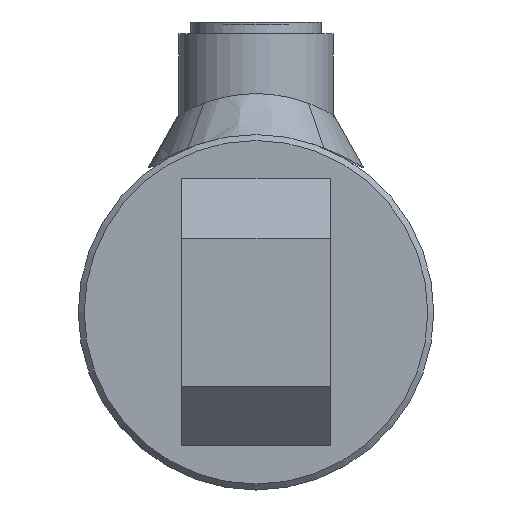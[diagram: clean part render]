
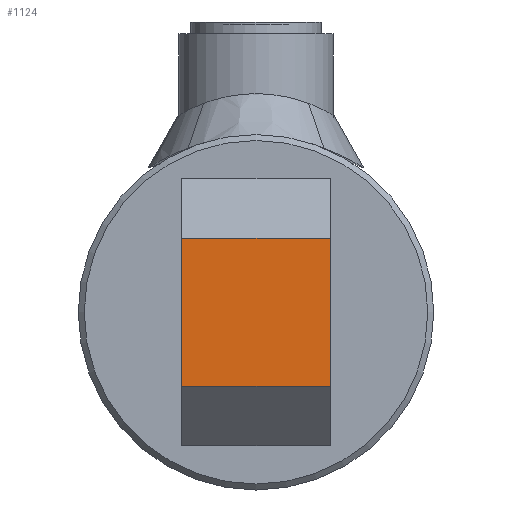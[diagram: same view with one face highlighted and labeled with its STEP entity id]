
A CAD part, left-side view. The second image highlights one B-rep face of the part: STEP entity #1124.
In plain terms, the highlighted planar face has unit normal (-1, 0, 0) as drawn and (1, 0, 0) by its records, which use the part's own axes.
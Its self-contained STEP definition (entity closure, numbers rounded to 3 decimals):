
#1124 = ADVANCED_FACE( '', ( #1530 ), #1531, .T. );
#1530 = FACE_OUTER_BOUND( '', #2957, .T. );
#1531 = PLANE( '', #2958 );
#2957 = EDGE_LOOP( '', ( #3500, #3501, #3502, #3503 ) );
#2958 = AXIS2_PLACEMENT_3D( '', #3504, #3505, #3506 );
#3500 = ORIENTED_EDGE( '', *, *, #3943, .T. );
#3501 = ORIENTED_EDGE( '', *, *, #3962, .T. );
#3502 = ORIENTED_EDGE( '', *, *, #3948, .T. );
#3503 = ORIENTED_EDGE( '', *, *, #3961, .T. );
#3504 = CARTESIAN_POINT( '', ( 50., -12.5, -22.5 ) );
#3505 = DIRECTION( '', ( 1., 0., 0. ) );
#3506 = DIRECTION( '', ( 0., 1., 0. ) );
#3943 = EDGE_CURVE( '', #4543, #4541, #4544, .T. );
#3948 = EDGE_CURVE( '', #4552, #4553, #4554, .T. );
#3961 = EDGE_CURVE( '', #4553, #4543, #4574, .T. );
#3962 = EDGE_CURVE( '', #4541, #4552, #4575, .T. );
#4541 = VERTEX_POINT( '', #5761 );
#4543 = VERTEX_POINT( '', #5764 );
#4544 = LINE( '', #5765, #5766 );
#4552 = VERTEX_POINT( '', #5777 );
#4553 = VERTEX_POINT( '', #5778 );
#4554 = LINE( '', #5779, #5780 );
#4574 = LINE( '', #5809, #5810 );
#4575 = LINE( '', #5811, #5812 );
#5761 = CARTESIAN_POINT( '', ( 50., 12.5, 12.5 ) );
#5764 = CARTESIAN_POINT( '', ( 50., 12.5, -12.5 ) );
#5765 = CARTESIAN_POINT( '', ( 50., 12.5, -22.5 ) );
#5766 = VECTOR( '', #6136, 1000. );
#5777 = CARTESIAN_POINT( '', ( 50., -12.5, 12.5 ) );
#5778 = CARTESIAN_POINT( '', ( 50., -12.5, -12.5 ) );
#5779 = CARTESIAN_POINT( '', ( 50., -12.5, 22.5 ) );
#5780 = VECTOR( '', #6143, 1000. );
#5809 = CARTESIAN_POINT( '', ( 50., 12.5, -12.5 ) );
#5810 = VECTOR( '', #6162, 1000. );
#5811 = CARTESIAN_POINT( '', ( 50., -12.5, 12.5 ) );
#5812 = VECTOR( '', #6163, 1000. );
#6136 = DIRECTION( '', ( 0., 0., 1. ) );
#6143 = DIRECTION( '', ( 0., 0., -1. ) );
#6162 = DIRECTION( '', ( 0., 1., 0. ) );
#6163 = DIRECTION( '', ( 0., -1., 0. ) );
